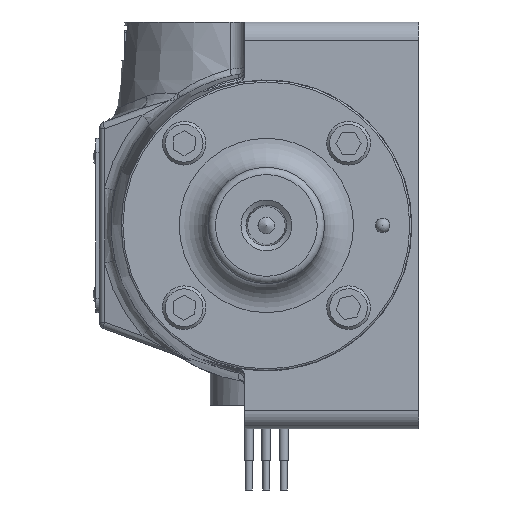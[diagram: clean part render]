
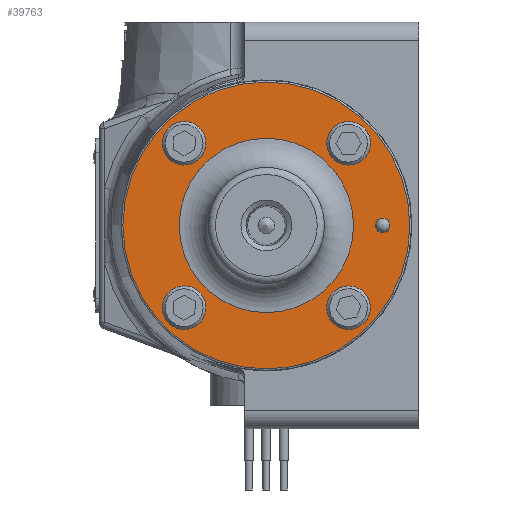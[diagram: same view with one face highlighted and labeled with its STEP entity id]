
A CAD part, left-side view. The second image highlights one B-rep face of the part: STEP entity #39763.
In plain terms, the highlighted planar face has unit normal (-1, 0, 0).
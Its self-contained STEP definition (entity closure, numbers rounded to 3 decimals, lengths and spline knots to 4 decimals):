
#836=FACE_BOUND('',#6221,.T.);
#837=FACE_BOUND('',#6222,.T.);
#838=FACE_BOUND('',#6223,.T.);
#839=FACE_BOUND('',#6224,.T.);
#840=FACE_BOUND('',#6225,.T.);
#841=FACE_BOUND('',#6226,.T.);
#1784=CIRCLE('',#42293,3.1353);
#1785=CIRCLE('',#42294,0.4763);
#1786=CIRCLE('',#42295,0.4763);
#1787=CIRCLE('',#42296,0.4763);
#1788=CIRCLE('',#42297,0.4763);
#1789=CIRCLE('',#42298,0.1588);
#1790=CIRCLE('',#42299,0.1588);
#1791=CIRCLE('',#42300,1.905);
#3857=FACE_OUTER_BOUND('',#6220,.T.);
#6220=EDGE_LOOP('',(#25652));
#6221=EDGE_LOOP('',(#25653));
#6222=EDGE_LOOP('',(#25654));
#6223=EDGE_LOOP('',(#25655));
#6224=EDGE_LOOP('',(#25656));
#6225=EDGE_LOOP('',(#25657,#25658));
#6226=EDGE_LOOP('',(#25659));
#15460=VERTEX_POINT('',#57725);
#15461=VERTEX_POINT('',#57727);
#15462=VERTEX_POINT('',#57729);
#15463=VERTEX_POINT('',#57731);
#15464=VERTEX_POINT('',#57733);
#15465=VERTEX_POINT('',#57735);
#15466=VERTEX_POINT('',#57736);
#15467=VERTEX_POINT('',#57739);
#19343=EDGE_CURVE('',#15460,#15460,#1784,.T.);
#19344=EDGE_CURVE('',#15461,#15461,#1785,.T.);
#19345=EDGE_CURVE('',#15462,#15462,#1786,.T.);
#19346=EDGE_CURVE('',#15463,#15463,#1787,.T.);
#19347=EDGE_CURVE('',#15464,#15464,#1788,.T.);
#19348=EDGE_CURVE('',#15465,#15466,#1789,.T.);
#19349=EDGE_CURVE('',#15466,#15465,#1790,.T.);
#19350=EDGE_CURVE('',#15467,#15467,#1791,.T.);
#25652=ORIENTED_EDGE('',*,*,#19343,.F.);
#25653=ORIENTED_EDGE('',*,*,#19344,.T.);
#25654=ORIENTED_EDGE('',*,*,#19345,.T.);
#25655=ORIENTED_EDGE('',*,*,#19346,.T.);
#25656=ORIENTED_EDGE('',*,*,#19347,.T.);
#25657=ORIENTED_EDGE('',*,*,#19348,.T.);
#25658=ORIENTED_EDGE('',*,*,#19349,.T.);
#25659=ORIENTED_EDGE('',*,*,#19350,.F.);
#36481=PLANE('',#42292);
#39763=ADVANCED_FACE('',(#3857,#836,#837,#838,#839,#840,#841),#36481,.F.);
#42292=AXIS2_PLACEMENT_3D('',#57724,#46788,#46789);
#42293=AXIS2_PLACEMENT_3D('',#57726,#46790,#46791);
#42294=AXIS2_PLACEMENT_3D('',#57728,#46792,#46793);
#42295=AXIS2_PLACEMENT_3D('',#57730,#46794,#46795);
#42296=AXIS2_PLACEMENT_3D('',#57732,#46796,#46797);
#42297=AXIS2_PLACEMENT_3D('',#57734,#46798,#46799);
#42298=AXIS2_PLACEMENT_3D('',#57737,#46800,#46801);
#42299=AXIS2_PLACEMENT_3D('',#57738,#46802,#46803);
#42300=AXIS2_PLACEMENT_3D('',#57740,#46804,#46805);
#46788=DIRECTION('center_axis',(1.,0.,0.));
#46789=DIRECTION('ref_axis',(0.,0.,
-1.));
#46790=DIRECTION('center_axis',(1.,0.,0.));
#46791=DIRECTION('ref_axis',(0.,0.,
-1.));
#46792=DIRECTION('center_axis',(1.,0.,0.));
#46793=DIRECTION('ref_axis',(0.,-0.2,-0.98));
#46794=DIRECTION('center_axis',(1.,0.,0.));
#46795=DIRECTION('ref_axis',(0.,-0.488,-0.873));
#46796=DIRECTION('center_axis',(1.,0.,0.));
#46797=DIRECTION('ref_axis',(0.,-1.,-0.02));
#46798=DIRECTION('center_axis',(1.,0.,0.));
#46799=DIRECTION('ref_axis',(0.,-0.004,
-1.));
#46800=DIRECTION('center_axis',(1.,0.,0.));
#46801=DIRECTION('ref_axis',(0.,0.,
-1.));
#46802=DIRECTION('center_axis',(1.,0.,0.));
#46803=DIRECTION('ref_axis',(0.,0.,
-1.));
#46804=DIRECTION('center_axis',(-1.,0.,0.));
#46805=DIRECTION('ref_axis',(0.,0.,
-1.));
#57724=CARTESIAN_POINT('Origin',(-6.1074,0.,0.));
#57725=CARTESIAN_POINT('',(-6.1074,0.,3.1353));
#57726=CARTESIAN_POINT('Origin',(-6.1074,0.,0.));
#57727=CARTESIAN_POINT('',(-6.1074,-1.7009,-1.3294));
#57728=CARTESIAN_POINT('Origin',(-6.1074,-1.7961,-1.7961));
#57729=CARTESIAN_POINT('',(-6.1074,2.0283,2.2119));
#57730=CARTESIAN_POINT('Origin',(-6.1074,1.7961,1.7961));
#57731=CARTESIAN_POINT('',(-6.1074,2.2722,-1.7864));
#57732=CARTESIAN_POINT('Origin',(-6.1074,1.7961,-1.7961));
#57733=CARTESIAN_POINT('',(-6.1074,-1.7941,2.2723));
#57734=CARTESIAN_POINT('Origin',(-6.1074,-1.7961,1.7961));
#57735=CARTESIAN_POINT('',(-6.1074,-2.54,0.1588));
#57736=CARTESIAN_POINT('',(-6.1074,-2.54,-0.1587));
#57737=CARTESIAN_POINT('Origin',(-6.1074,-2.54,0.));
#57738=CARTESIAN_POINT('Origin',(-6.1074,-2.54,0.));
#57739=CARTESIAN_POINT('',(-6.1074,0.,1.905));
#57740=CARTESIAN_POINT('Origin',(-6.1074,0.,0.));
